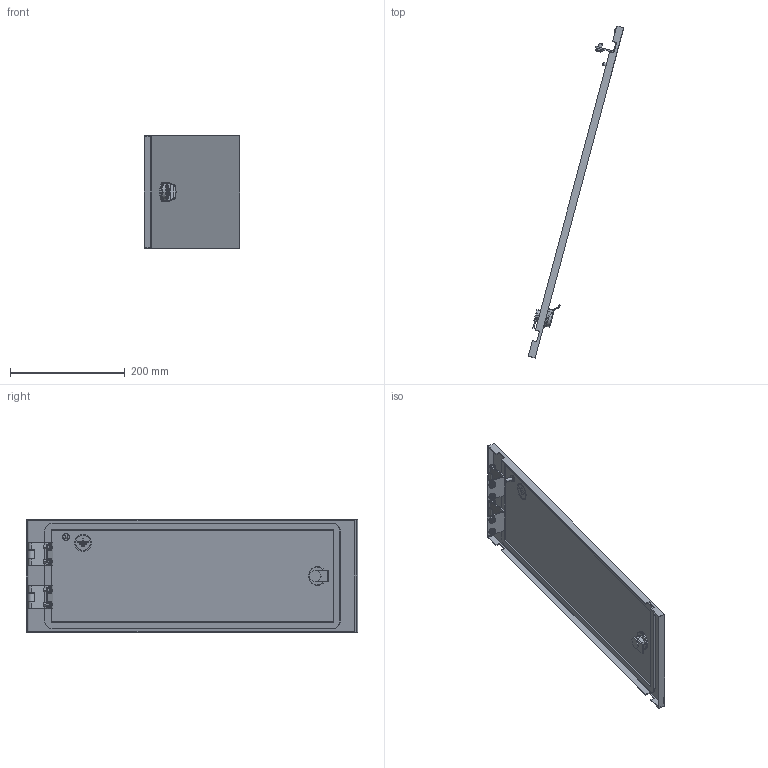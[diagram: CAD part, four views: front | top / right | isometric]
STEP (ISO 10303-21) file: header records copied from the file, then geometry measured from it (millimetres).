
FILE_DESCRIPTION (( 'STEP AP214' ), '1' );
FILE_NAME ('FO-00-ESD-020-060 Äâåðü ñåêöèîííàÿ âíåøíÿÿ 200x600 ìì.STEP', '2025-08-20T06:02:47', ( '' ), ( '' ), 'SwSTEP 2.0', 'SolidWorks 2023', '' );
FILE_SCHEMA (( 'AUTOMOTIVE_DESIGN' ));
Length unit declared in the file: millimetre
Products named in the file (4): Петля.STEP; FO-00-ESD-020-060 Дверь секционная внешняя 200×600.STEP; FO-00-ESD-020-060 Дверь секционная внешняя 200x600 мм; FO-00-ESD-020-060 Дверь секционная внешняя 200x600 мм.STEP
Assembly tree (4 placements, depth 3):
  FO-00-ESD-020-060 Дверь секционная внешняя 200x600 мм
    FO-00-ESD-020-060 Дверь секционная внешняя 200x600 мм.STEP
      FO-00-ESD-020-060 Дверь секционная внешняя 200×600.STEP
      Петля.STEP  x2
Bounding box: 165.93 x 578 x 196 mm (x, y, z)
Volume: 337758.7 mm3; surface area: 297907.2 mm2
Topology: 3 solids, 9 shells, 544 faces, 1383 edges, 891 vertices
Faces by surface type: plane 243, cylinder 221, cone 40, torus 21, bspline 19
Entity records: 14837 total; most frequent: CARTESIAN_POINT 3906, DIRECTION 2277, ORIENTED_EDGE 2256, EDGE_CURVE 1128, AXIS2_PLACEMENT_3D 799, VERTEX_POINT 729, VECTOR 679, LINE 679
